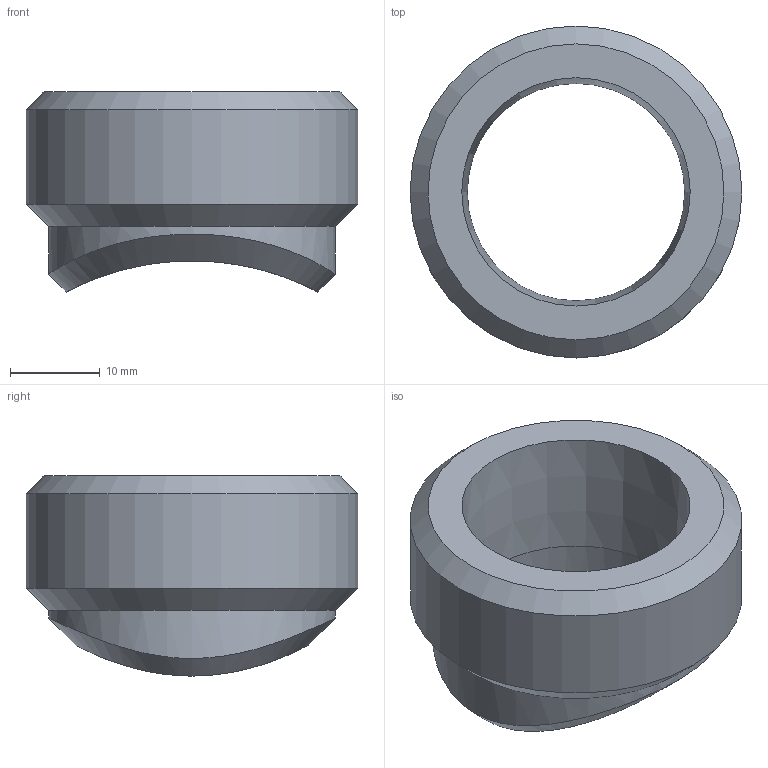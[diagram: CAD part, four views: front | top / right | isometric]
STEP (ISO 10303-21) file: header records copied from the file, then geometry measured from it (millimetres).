
FILE_DESCRIPTION(/* description */ ('Unknown','CAx-IF Rec.Pracs.---Representation and Presentation of Product Manufacturing Information (PMI)---4.0---2014-10-13','CAx-IF Rec.Pracs.---3D Tessellated Geometry---0.4---2014-09-14','2;1'),/* implementation_level */ '2;1');
FILE_NAME(/* name */ '10735_A',/* time_stamp */ '2022-06-29T13:51:06+02:00',/* author */ ('Unknown'),/* organization */ ('Unknown'),/* preprocessor_version */ 'ST-DEVELOPER v16.7',/* originating_system */ 'Solid Edge',/* authorisation */ 'Unknown');
FILE_SCHEMA (('AP242_MANAGED_MODEL_BASED_3D_ENGINEERING_MIM_LF { 1 0 10303 442 1 1 4 }'));
Length unit declared in the file: millimetre
Products named in the file (1): 10735_A
Bounding box: 37 x 37 x 22.32 mm (x, y, z)
Volume: 9887.1 mm3; surface area: 4578.2 mm2
Topology: 1 solids, 1 shells, 9 faces, 18 edges, 11 vertices
Faces by surface type: cylinder 4, cone 3, plane 1, bspline 1
Full cylindrical faces by diameter (mm): 24.239 x1, 32 x1, 37 x1
Entity records: 510 total; most frequent: CARTESIAN_POINT 283, DIRECTION 30, ORIENTED_EDGE 18, EDGE_LOOP 18, FACE_BOUND 18, AXIS2_PLACEMENT_3D 15, EDGE_CURVE 9, VERTEX_POINT 9
